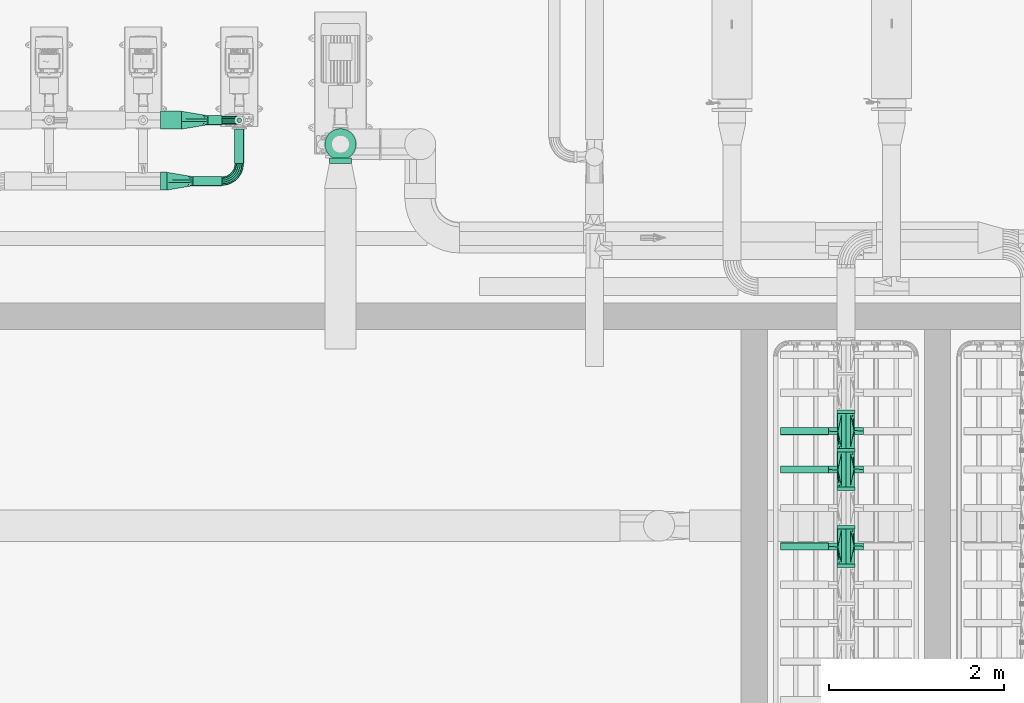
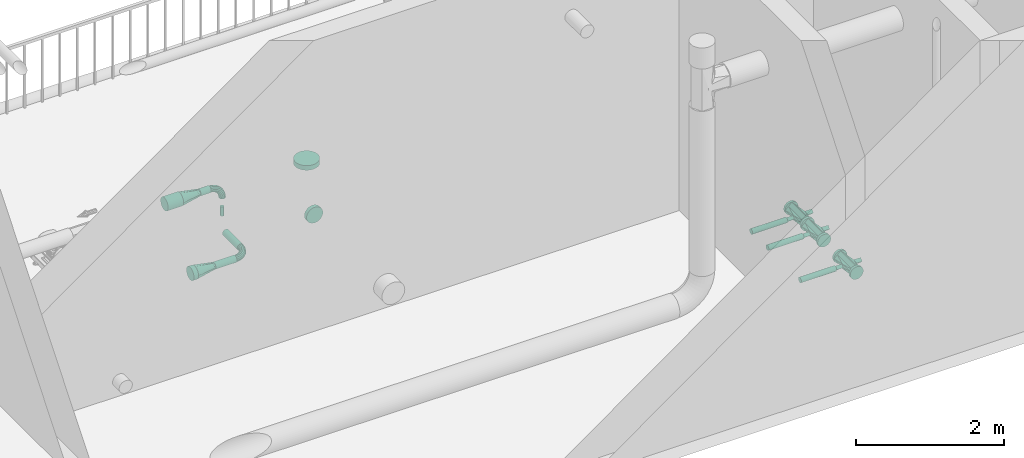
# One storey, part 12 of 28: 16 flow segments, 7 flow fittings.
"""IFC2X3 building model written with IfcOpenShell, lengths in millimetres."""

from ifc_helpers import new_model, entity, si_unit, converted_unit, direction, frame, frame_2d, origin, origin_2d_with_axis, place, context, subcontext, project, spatial, circle, extrude, faceted_brep, source, transform, mapped, material, type_object, type_shapes, element, save


model = new_model("IFC2X3")

# Units and contexts
model_context = context("Model", 3, precision=0.01, world=origin(), true_north=direction((6.123031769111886e-17, 1.0)))
body_context = subcontext(model_context, "Body", "Model", "MODEL_VIEW")
ifc_project = project(units=[si_unit("LENGTHUNIT", "METRE", prefix="MILLI"), converted_unit("PLANEANGLEUNIT", "DEGREE", entity("IfcPlaneAngleMeasure", 0.017453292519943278), si_unit("PLANEANGLEUNIT", "RADIAN"), dimensions=[0, 0, 0, 0, 0, 0, 0]), si_unit("AREAUNIT", "SQUARE_METRE")], contexts=[model_context])

# Site, building, storey
site_placement = place(None, frame((7776.576483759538, 118.3519876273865, 0.0)))
site = spatial("IfcSite", under=ifc_project, at=site_placement, Name="Default", CompositionType="ELEMENT")
building_placement = place(site_placement, origin())
building = spatial("IfcBuilding", under=site, at=building_placement, Name="Bygning (endres i Project Information)", CompositionType="ELEMENT")
storey_placement = place(building_placement, frame((0.0, 0.0, 14000.0)))
storey = spatial("IfcBuildingStorey", under=building, at=storey_placement, Name="Plan U1 - Arbeid", CompositionType="ELEMENT", Elevation=14000.000000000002)

# Flow segments
ifc_material = material(Name="SS 2343 Rustfritt stål, prosessrør, generisk")
pipe_segment_type = type_object("IfcPipeSegmentType", Name="Pipe Types:AISI 304L Rustfritt", PredefinedType="NOTDEFINED", material=ifc_material)
flow_segment_1_placement = place(storey_placement, origin())
element("IfcFlowSegment", 1, at=flow_segment_1_placement, inside=storey, type_object=pipe_segment_type, Name="Pipe Types:AISI 304L Rustfritt", ObjectType="Pipe Types:AISI 304L Rustfritt", context=body_context, shape_type="SweptSolid", body=[
    extrude(circle(Radius=42.0, at=origin_2d_with_axis()), frame((28224.00137486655, 23031.757305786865, 203.0), z_axis=(1.0, 0.0, 0.0), x_axis=(0.0, -1.0, 0.0)), (0.0, 0.0, 1.0), 550.0000000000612),
])
flow_segment_2_placement = place(storey_placement, origin())
element("IfcFlowSegment", 2, at=flow_segment_2_placement, inside=storey, type_object=pipe_segment_type, Name="Pipe Types:AISI 304L Rustfritt", ObjectType="Pipe Types:AISI 304L Rustfritt", context=body_context, shape_type="SweptSolid", body=[
    extrude(circle(Radius=103.0, at=origin_2d_with_axis()), frame((28974.001374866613, 23231.75730578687, 203.0), z_axis=(0.0, 1.0, 0.0), x_axis=(1.0, 0.0, 0.0)), (0.0, 0.0, 1.0), 39.99999999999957),
])
flow_segment_3_placement = place(storey_placement, origin())
element("IfcFlowSegment", 3, at=flow_segment_3_placement, inside=storey, type_object=pipe_segment_type, Name="Pipe Types:AISI 304L Rustfritt", ObjectType="Pipe Types:AISI 304L Rustfritt", context=body_context, shape_type="SweptSolid", body=[
    extrude(circle(Radius=42.0, at=origin_2d_with_axis()), frame((28224.00137486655, 22591.757305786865, 203.0), z_axis=(1.0, 0.0, 0.0), x_axis=(0.0, -1.0, 0.0)), (0.0, 0.0, 1.0), 550.0000000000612),
])
flow_segment_4_placement = place(storey_placement, origin())
element("IfcFlowSegment", 4, at=flow_segment_4_placement, inside=storey, type_object=pipe_segment_type, Name="Pipe Types:AISI 304L Rustfritt", ObjectType="Pipe Types:AISI 304L Rustfritt", context=body_context, shape_type="SweptSolid", body=[
    extrude(circle(Radius=103.0, at=origin_2d_with_axis()), frame((28974.001374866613, 22791.75730578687, 203.0), z_axis=(0.0, 1.0, 0.0), x_axis=(1.0, 0.0, 0.0)), (0.0, 0.0, 1.0), 39.99999999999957),
])
flow_segment_5_placement = place(storey_placement, origin())
element("IfcFlowSegment", 5, at=flow_segment_5_placement, inside=storey, type_object=pipe_segment_type, Name="Pipe Types:AISI 304L Rustfritt", ObjectType="Pipe Types:AISI 304L Rustfritt", context=body_context, shape_type="SweptSolid", body=[
    extrude(circle(Radius=103.0, at=origin_2d_with_axis()), frame((28974.00137486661, 22351.75730578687, 203.0), z_axis=(0.0, 1.0, 0.0), x_axis=(1.0, 0.0, 0.0)), (0.0, 0.0, 1.0), 39.99999999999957),
])
flow_segment_6_placement = place(storey_placement, origin())
element("IfcFlowSegment", 6, at=flow_segment_6_placement, inside=storey, type_object=pipe_segment_type, Name="Pipe Types:AISI 304L Rustfritt", ObjectType="Pipe Types:AISI 304L Rustfritt", context=body_context, shape_type="SweptSolid", body=[
    extrude(circle(Radius=42.0, at=origin_2d_with_axis()), frame((28224.00137486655, 21711.757305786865, 203.0), z_axis=(1.0, 0.0, 0.0), x_axis=(0.0, -1.0, 0.0)), (0.0, 0.0, 1.0), 550.0000000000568),
])
flow_segment_7_placement = place(storey_placement, origin())
element("IfcFlowSegment", 7, at=flow_segment_7_placement, inside=storey, type_object=pipe_segment_type, Name="Pipe Types:AISI 304L Rustfritt", ObjectType="Pipe Types:AISI 304L Rustfritt", context=body_context, shape_type="SweptSolid", body=[
    extrude(circle(Radius=103.0, at=origin_2d_with_axis()), frame((28974.00137486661, 21911.75730578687, 203.0), z_axis=(0.0, 1.0, 0.0), x_axis=(1.0, 0.0, 0.0)), (0.0, 0.0, 1.0), 39.99999999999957),
])
flow_segment_8_placement = place(storey_placement, origin())
element("IfcFlowSegment", 8, at=flow_segment_8_placement, inside=storey, type_object=pipe_segment_type, Name="Pipe Types:AISI 304L Rustfritt", ObjectType="Pipe Types:AISI 304L Rustfritt", context=body_context, shape_type="SweptSolid", body=[
    extrude(circle(Radius=103.0, at=origin_2d_with_axis()), frame((28974.00137486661, 21471.757305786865, 203.0), z_axis=(0.0, 1.0, 0.0), x_axis=(1.0, 0.0, 0.0)), (0.0, 0.0, 1.0), 40.0000000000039),
])
flow_segment_9_placement = place(storey_placement, origin())
element("IfcFlowSegment", 9, at=flow_segment_9_placement, inside=storey, type_object=pipe_segment_type, Name="Pipe Types:AISI 304L Rustfritt", ObjectType="Pipe Types:AISI 304L Rustfritt", context=body_context, shape_type="SweptSolid", body=[
    extrude(circle(Radius=103.0, at=frame_2d((0.0, 2.1657342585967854e-12), x_axis=(1.0, 0.0))), frame((21122.997814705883, 25894.757305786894, 260.0), z_axis=(1.0, 0.0, 0.0), x_axis=(0.0, -1.0, 0.0)), (0.0, 0.0, 1.0), 71.0035601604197),
])
flow_segment_10_placement = place(storey_placement, origin())
element("IfcFlowSegment", 10, at=flow_segment_10_placement, inside=storey, type_object=pipe_segment_type, Name="Pipe Types:AISI 304L Rustfritt", ObjectType="Pipe Types:AISI 304L Rustfritt", context=body_context, shape_type="SweptSolid", body=[
    extrude(circle(Radius=53.0, at=origin_2d_with_axis()), frame((21494.001374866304, 25894.757305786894, 260.0), z_axis=(1.0, 0.0, 0.0), x_axis=(0.0, -1.0, 0.0)), (0.0, 0.0, 1.0), 330.0000000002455),
])
flow_segment_11_placement = place(storey_placement, origin())
element("IfcFlowSegment", 11, at=flow_segment_11_placement, inside=storey, type_object=pipe_segment_type, Name="Pipe Types:AISI 304L Rustfritt", ObjectType="Pipe Types:AISI 304L Rustfritt", context=body_context, shape_type="SweptSolid", body=[
    extrude(circle(Radius=53.0, at=origin_2d_with_axis()), frame((22024.001374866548, 26094.757305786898, 260.0), z_axis=(0.0, 1.0, 0.0), x_axis=(1.0, 0.0, 0.0)), (0.0, 0.0, 1.0), 398.48910844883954),
])
flow_segment_12_placement = place(storey_placement, origin())
element("IfcFlowSegment", 12, at=flow_segment_12_placement, inside=storey, type_object=pipe_segment_type, Name="Pipe Types:AISI 304L Rustfritt", ObjectType="Pipe Types:AISI 304L Rustfritt", context=body_context, shape_type="SweptSolid", body=[
    extrude(circle(Radius=53.0, at=origin_2d_with_axis()), frame((21664.001374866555, 26593.120379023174, 985.0123799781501), z_axis=(1.0, 0.0, 0.0), x_axis=(0.0, -1.0, 0.0)), (0.0, 0.0, 1.0), 159.99999999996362),
])
flow_segment_13_placement = place(storey_placement, origin())
element("IfcFlowSegment", 13, at=flow_segment_13_placement, inside=storey, type_object=pipe_segment_type, Name="Pipe Types:AISI 304L Rustfritt", ObjectType="Pipe Types:AISI 304L Rustfritt", context=body_context, shape_type="SweptSolid", body=[
    extrude(circle(Radius=27.0, at=frame_2d((0.0, -4.331468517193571e-12), x_axis=(1.0, 0.0))), frame((22024.001374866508, 26593.12037902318, 485.01237997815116)), (0.0, 0.0, 1.0), 149.9999999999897),
])
flow_segment_14_placement = place(storey_placement, origin())
element("IfcFlowSegment", 14, at=flow_segment_14_placement, inside=storey, type_object=pipe_segment_type, Name="Pipe Types:AISI 304L Rustfritt", ObjectType="Pipe Types:AISI 304L Rustfritt", context=body_context, shape_type="SweptSolid", body=[
    extrude(circle(Radius=103.0, at=frame_2d((0.0, -2.1657342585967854e-12), x_axis=(1.0, 0.0))), frame((21122.99781470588, 26593.120379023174, 985.0123799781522), z_axis=(1.0, 0.0, 0.0), x_axis=(0.0, 1.0, 0.0)), (0.0, 0.0, 1.0), 241.0035601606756),
])
flow_segment_15_placement = place(storey_placement, origin())
element("IfcFlowSegment", 15, at=flow_segment_15_placement, inside=storey, type_object=pipe_segment_type, Name="Pipe Types:AISI 304L Rustfritt", ObjectType="Pipe Types:AISI 304L Rustfritt", context=body_context, shape_type="SweptSolid", body=[
    extrude(circle(Radius=128.0, at=origin_2d_with_axis()), frame((23184.00137486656, 26098.199911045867, 380.0), z_axis=(0.0, 1.0, 0.0), x_axis=(-1.0, 0.0, 0.0)), (0.0, 0.0, 1.0), 60.000000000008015),
])
flow_segment_16_placement = place(storey_placement, origin())
element("IfcFlowSegment", 16, at=flow_segment_16_placement, inside=storey, type_object=pipe_segment_type, Name="Pipe Types:AISI 304L Rustfritt", ObjectType="Pipe Types:AISI 304L Rustfritt", context=body_context, shape_type="SweptSolid", body=[
    extrude(circle(Radius=178.0, at=origin_2d_with_axis()), frame((23184.001374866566, 26318.066833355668, 1109.7246873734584), z_axis=(0.0, 0.0, 1.0), x_axis=(-1.0, 0.0, 0.0)), (0.0, 0.0, 1.0), 76.74071019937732),
])

# Flow fittings
pipe_fitting_type_1 = type_object("IfcPipeFittingType", Name="VA_prosess_rustfritt_bend_D+100:VA_prosess_rustfritt_bend_D+100", PredefinedType="NOTDEFINED", material=ifc_material)
shared_shape_1 = source(origin(), body_context, "Body", "Brep", [
    faceted_brep([(-144.36976651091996, -43.73197804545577, 0.0), (-145.47159151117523, -38.904567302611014, 21.694186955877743), (-200.0, -45.04844339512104, 21.694186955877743), (-200.0, -50.0, 0.0), (-148.5588365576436, -25.37846297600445, 39.09157412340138), (-200.0, -31.17449009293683, 39.09157412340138), (-153.02003490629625, -5.83267591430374, 48.74639560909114), (-200.0, -11.126046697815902, 48.74639560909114), (-157.97159151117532, 15.861511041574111, 48.74639560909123), (-200.0, 11.126046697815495, 48.74639560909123), (-162.43278985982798, 35.40729810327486, 39.091574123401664), (-200.0, 31.17449009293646, 39.091574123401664), (-165.5200349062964, 48.93340242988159, 21.694186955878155), (-200.0, 45.04844339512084, 21.694186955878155), (-166.6218599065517, 53.760813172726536, 0.0), (-200.0, 50.0, 0.0), (-165.52003490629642, 48.9334024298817, -21.694186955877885), (-200.0, 45.04844339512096, -21.694186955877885), (-162.43278985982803, 35.4072981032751, -39.09157412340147), (-200.0, 31.174490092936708, -39.09157412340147), (-157.97159151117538, 15.861511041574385, -48.746395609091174), (-200.0, 11.126046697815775, -48.746395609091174), (-153.0200349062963, -5.832675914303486, -48.7463956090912), (-200.0, -11.12604669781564, -48.7463956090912), (-148.55883655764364, -25.37846297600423, -39.09157412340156), (-200.0, -31.1744900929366, -39.09157412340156), (-145.47159151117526, -38.90456730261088, -21.694186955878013), (-200.0, -45.048443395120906, -21.694186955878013), (-91.52906522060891, -25.242216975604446, 0.0), (-93.67746511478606, -20.781018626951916, 21.694186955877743), (-99.69714784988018, -8.281018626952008, 39.09157412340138), (-108.39584143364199, 9.782004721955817, 48.74639560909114), (-118.05066291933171, 29.83044811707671, 48.74639560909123), (-126.74935650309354, 47.89347146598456, 39.091574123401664), (-132.76903923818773, 60.39347146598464, 21.694186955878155), (-134.917439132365, 64.85466981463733, 0.0), (-132.7690392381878, 60.393471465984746, -21.694186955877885), (-126.74935650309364, 47.89347146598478, -39.09157412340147), (-118.05066291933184, 29.830448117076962, -48.746395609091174), (-108.3958414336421, 9.782004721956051, -48.7463956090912), (-99.69714784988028, -8.281018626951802, -39.09157412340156), (-93.67746511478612, -20.781018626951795, -21.694186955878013), (-44.12754953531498, 4.542129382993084, 0.0), (-47.21479458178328, 8.41341222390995, 21.694186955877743), (-55.86506297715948, 19.26050570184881, 39.09157412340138), (-68.36506297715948, 34.935009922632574, 48.74639560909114), (-82.23901627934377, 52.33239709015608, 48.74639560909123), (-94.73901627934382, 68.00690131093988, 39.091574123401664), (-103.38928467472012, 78.85399478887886, 21.694186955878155), (-106.47652972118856, 82.72527762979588, 0.0), (-103.3892846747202, 78.85399478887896, -21.694186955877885), (-94.73901627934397, 68.00690131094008, -39.09157412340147), (-82.23901627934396, 52.332397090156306, -48.746395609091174), (-68.36506297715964, 34.93500992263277, -48.7463956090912), (-55.865062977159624, 19.260505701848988, -39.09157412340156), (-47.214794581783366, 8.413412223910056, -21.694186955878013), (-4.542129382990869, 44.12754953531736, 0.0), (-8.413412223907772, 47.214794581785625, 21.694186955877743), (-19.260505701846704, 55.86506297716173, 39.09157412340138), (-34.93500992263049, 68.3650629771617, 48.74639560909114), (-52.33239709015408, 82.2390162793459, 48.74639560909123), (-68.00690131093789, 94.73901627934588, 39.091574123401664), (-78.85399478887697, 103.3892846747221, 21.694186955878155), (-82.72527762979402, 106.47652972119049, 0.0), (-78.85399478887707, 103.38928467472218, -21.694186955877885), (-68.00690131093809, 94.73901627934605, -39.09157412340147), (-52.3323970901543, 82.23901627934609, -48.746395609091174), (-34.9350099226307, 68.36506297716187, -48.7463956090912), (-19.26050570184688, 55.86506297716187, -39.09157412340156), (-8.413412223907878, 47.21479458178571, -21.694186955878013), (25.242216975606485, 91.52906522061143, 0.0), (20.781018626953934, 93.67746511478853, 21.694186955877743), (8.28101862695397, 99.69714784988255, 39.09157412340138), (-9.782004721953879, 108.3958414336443, 48.74639560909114), (-29.830448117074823, 118.05066291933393, 48.74639560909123), (-47.89347146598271, 126.7493565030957, 39.091574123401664), (-60.39347146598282, 132.7690392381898, 21.694186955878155), (-64.85466981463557, 134.91743913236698, 0.0), (-60.393471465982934, 132.76903923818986, -21.694186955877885), (-47.893471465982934, 126.74935650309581, -39.09157412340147), (-29.830448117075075, 118.05066291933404, -48.746395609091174), (-9.782004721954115, 108.39584143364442, -48.7463956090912), (8.281018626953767, 99.69714784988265, -39.09157412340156), (20.781018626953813, 93.67746511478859, -21.694186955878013), (43.73197804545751, 144.36976651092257, 0.0), (38.90456730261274, 145.47159151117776, 21.694186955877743), (25.378462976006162, 148.55883655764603, 39.09157412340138), (5.832675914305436, 153.0200349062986, 48.74639560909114), (-15.861511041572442, 157.97159151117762, 48.74639560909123), (-35.4072981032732, 162.4327898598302, 39.091574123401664), (-48.933402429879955, 165.52003490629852, 21.694186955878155), (-53.760813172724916, 166.62185990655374, 0.0), (-48.93340242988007, 165.52003490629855, -21.694186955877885), (-35.40729810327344, 162.43278985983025, -39.09157412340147), (-15.861511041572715, 157.97159151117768, -48.746395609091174), (5.832675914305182, 153.0200349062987, -48.7463956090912), (25.37846297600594, 148.5588365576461, -39.09157412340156), (38.90456730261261, 145.4715915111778, -21.694186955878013), (50.0, 200.0, 0.0), (45.04844339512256, 200.0, 21.694186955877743), (31.174490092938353, 200.0, 39.09157412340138), (11.126046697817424, 200.0, 48.74639560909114), (-11.126046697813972, 200.0, 48.74639560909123), (-31.174490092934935, 200.0, 39.091574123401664), (-45.04844339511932, 200.0, 21.694186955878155), (-50.0, 200.0, 0.0), (-45.04844339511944, 200.0, -21.694186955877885), (-31.174490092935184, 200.0, -39.09157412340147), (-11.126046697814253, 200.0, -48.746395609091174), (11.126046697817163, 200.0, -48.7463956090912), (31.174490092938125, 200.0, -39.09157412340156), (45.048443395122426, 200.0, -21.694186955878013)], [[[0, 1, 2, 3]], [[1, 4, 5, 2]], [[4, 6, 7, 5]], [[6, 8, 9, 7]], [[8, 10, 11, 9]], [[10, 12, 13, 11]], [[12, 14, 15, 13]], [[14, 16, 17, 15]], [[16, 18, 19, 17]], [[18, 20, 21, 19]], [[20, 22, 23, 21]], [[22, 24, 25, 23]], [[24, 26, 27, 25]], [[26, 0, 3, 27]], [[28, 29, 1, 0]], [[29, 30, 4, 1]], [[30, 31, 6, 4]], [[31, 32, 8, 6]], [[32, 33, 10, 8]], [[33, 34, 12, 10]], [[34, 35, 14, 12]], [[35, 36, 16, 14]], [[36, 37, 18, 16]], [[37, 38, 20, 18]], [[38, 39, 22, 20]], [[39, 40, 24, 22]], [[40, 41, 26, 24]], [[41, 28, 0, 26]], [[42, 43, 29, 28]], [[43, 44, 30, 29]], [[44, 45, 31, 30]], [[45, 46, 32, 31]], [[46, 47, 33, 32]], [[47, 48, 34, 33]], [[48, 49, 35, 34]], [[49, 50, 36, 35]], [[50, 51, 37, 36]], [[51, 52, 38, 37]], [[52, 53, 39, 38]], [[53, 54, 40, 39]], [[54, 55, 41, 40]], [[55, 42, 28, 41]], [[56, 57, 43, 42]], [[57, 58, 44, 43]], [[58, 59, 45, 44]], [[59, 60, 46, 45]], [[60, 61, 47, 46]], [[61, 62, 48, 47]], [[62, 63, 49, 48]], [[63, 64, 50, 49]], [[64, 65, 51, 50]], [[65, 66, 52, 51]], [[66, 67, 53, 52]], [[67, 68, 54, 53]], [[68, 69, 55, 54]], [[69, 56, 42, 55]], [[70, 71, 57, 56]], [[71, 72, 58, 57]], [[72, 73, 59, 58]], [[73, 74, 60, 59]], [[74, 75, 61, 60]], [[75, 76, 62, 61]], [[76, 77, 63, 62]], [[77, 78, 64, 63]], [[78, 79, 65, 64]], [[79, 80, 66, 65]], [[80, 81, 67, 66]], [[81, 82, 68, 67]], [[82, 83, 69, 68]], [[83, 70, 56, 69]], [[84, 85, 71, 70]], [[85, 86, 72, 71]], [[86, 87, 73, 72]], [[87, 88, 74, 73]], [[88, 89, 75, 74]], [[89, 90, 76, 75]], [[90, 91, 77, 76]], [[91, 92, 78, 77]], [[92, 93, 79, 78]], [[93, 94, 80, 79]], [[94, 95, 81, 80]], [[95, 96, 82, 81]], [[96, 97, 83, 82]], [[97, 84, 70, 83]], [[98, 99, 85, 84]], [[99, 100, 86, 85]], [[100, 101, 87, 86]], [[101, 102, 88, 87]], [[102, 103, 89, 88]], [[103, 104, 90, 89]], [[104, 105, 91, 90]], [[105, 106, 92, 91]], [[106, 107, 93, 92]], [[107, 108, 94, 93]], [[108, 109, 95, 94]], [[109, 110, 96, 95]], [[110, 111, 97, 96]], [[111, 98, 84, 97]], [[3, 2, 5, 7, 9, 11, 13, 15, 17, 19, 21, 23, 25, 27]], [[111, 110, 109, 108, 107, 106, 105, 104, 103, 102, 101, 100, 99, 98]]]),
])
type_shapes(pipe_fitting_type_1, [shared_shape_1])
flow_fitting_1_placement = place(storey_placement, frame((22024.00137486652, 26593.120379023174, 985.0123799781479), z_axis=(0.0, 1.0, 0.0), x_axis=(1.0, 0.0, 0.0)))
element("IfcFlowFitting", 17, at=flow_fitting_1_placement, inside=storey, type_object=pipe_fitting_type_1, material=ifc_material, Name="VA_prosess_rustfritt_bend_D+100:VA_prosess_rustfritt_bend_D+100", ObjectType="VA_prosess_rustfritt_bend_D+100:VA_prosess_rustfritt_bend_D+100", context=body_context, shape_type="MappedRepresentation", body=[
    mapped(shared_shape_1, transform((0.0, 0.0, 0.0), scale=1.0)),
])
flow_fitting_2_placement = place(storey_placement, frame((22024.001374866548, 25894.757305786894, 260.0)))
element("IfcFlowFitting", 18, at=flow_fitting_2_placement, inside=storey, type_object=pipe_fitting_type_1, material=ifc_material, Name="VA_prosess_rustfritt_bend_D+100:VA_prosess_rustfritt_bend_D+100", ObjectType="VA_prosess_rustfritt_bend_D+100:VA_prosess_rustfritt_bend_D+100", context=body_context, shape_type="MappedRepresentation", body=[
    mapped(shared_shape_1, transform((0.0, 0.0, 0.0), scale=1.0)),
])
pipe_fitting_type_2 = type_object("IfcPipeFittingType", Name="VA_prosess_rustfritt_kryss:VA_prosess_rustfritt_kryss", PredefinedType="NOTDEFINED", material=ifc_material)
shared_shape_2 = source(origin(), body_context, "Body", "Brep", [
    faceted_brep([(-200.0, -100.0, 0.0), (-200.0, -50.0, 50.0), (-200.0, 0.0, 100.0), (-200.0, 50.0, 50.0), (-200.0, 75.0, 25.0), (-200.0, 100.0, 0.0), (-200.0, 50.0, -50.0), (-200.0, 0.0, -100.0), (-200.0, -50.0, -50.0), (-200.0, -75.0, -25.0), (200.0, 50.0, -50.0), (200.0, 75.0, -25.0), (200.0, 100.0, 0.0), (200.0, 50.0, 50.0), (200.0, 0.0, 100.0), (200.0, -50.0, 50.0), (200.0, -75.0, 25.0), (200.0, -100.0, 0.0), (200.0, -50.0, -50.0), (200.0, 0.0, -100.0), (40.0, -100.0, 0.0), (-7.006670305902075, 91.91895032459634, 39.381551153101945), (-40.0, -100.0, 0.0), (-28.24833242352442, -97.97973758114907, 9.845387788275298), (-16.496664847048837, -95.9594751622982, 19.690775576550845), (-4.744997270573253, -93.93921274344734, 29.53616336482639), (7.00667030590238, -91.91895032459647, 39.38155115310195), (23.50333515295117, -95.95947516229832, 19.690775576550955), (-23.503335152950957, 95.95947516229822, 19.69077557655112), (-40.0, 100.0, 0.0), (40.0, 100.0, 0.0), (28.248332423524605, 97.97973758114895, 9.845387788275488), (16.496664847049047, 95.95947516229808, 19.690775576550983), (4.744997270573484, 93.93921274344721, 29.536163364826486), (-7.017574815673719, -91.91978218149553, -39.37960949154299), (-23.508787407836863, -95.95989109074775, -19.68980474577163), (-28.245606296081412, 97.97994554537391, -9.844902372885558), (-16.491212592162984, 95.95989109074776, -19.689804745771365), (-4.736818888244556, 93.93983663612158, -29.534707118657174), (7.017574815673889, 91.91978218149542, -39.37960949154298), (23.508787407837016, 95.95989109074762, -19.689804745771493), (28.24560629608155, -97.97994554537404, -9.844902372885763), (16.49121259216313, -95.95989109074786, -19.689804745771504), (4.736818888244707, -93.9398366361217, -29.53470711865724), (19.233483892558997, -200.0, -20.76651610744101), (29.616741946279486, -200.0, -10.383258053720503), (40.0, -200.0, 0.0), (20.0, -200.0, 20.0), (0.0, -200.0, 40.0), (-19.2334837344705, -200.0, 20.76651626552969), (-29.616741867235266, -200.0, 10.383258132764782), (-40.0, -200.0, 0.0), (-20.0, -200.0, -20.0), (0.0, -200.0, -40.0), (-19.23348389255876, 200.0, -20.766516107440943), (-29.616741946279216, 200.0, -10.38325805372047), (-40.0, 200.0, 0.0), (-20.0, 200.0, 20.0), (0.0, 200.0, 40.0), (19.233483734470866, 200.0, 20.76651626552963), (29.616741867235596, 200.0, 10.383258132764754), (40.0, 200.0, 0.0), (20.0, 200.0, -20.0), (0.0, 200.0, -40.0)], [[[0, 1, 2, 3, 4, 5, 6, 7, 8, 9]], [[10, 11, 12, 13, 14, 15, 16, 17, 18, 19]], [[17, 16, 20]], [[15, 14, 2, 1]], [[3, 13, 21]], [[0, 22, 23, 24, 25, 26]], [[0, 26, 1]], [[16, 26, 27, 20]], [[4, 21, 28, 29]], [[21, 13, 12]], [[26, 16, 15]], [[12, 30, 31, 32, 33, 21]], [[29, 5, 4]], [[2, 14, 13, 3]], [[21, 4, 3]], [[1, 26, 15]], [[11, 30, 12]], [[10, 19, 7, 6]], [[34, 9, 8]], [[9, 34, 35, 22]], [[5, 29, 36, 37, 38, 39]], [[39, 11, 10]], [[5, 39, 6]], [[34, 18, 17]], [[11, 39, 40, 30]], [[17, 20, 41, 42, 43, 34]], [[22, 0, 9]], [[7, 19, 18, 8]], [[6, 39, 10]], [[8, 18, 34]], [[44, 45, 46, 47, 48, 49, 50, 51, 52, 53]], [[25, 24, 23, 49]], [[49, 23, 50]], [[50, 22, 51]], [[49, 48, 25]], [[26, 48, 47]], [[47, 27, 26]], [[20, 27, 46]], [[46, 27, 47]], [[48, 26, 25]], [[22, 50, 23]], [[43, 42, 41, 44]], [[44, 41, 45]], [[45, 20, 46]], [[44, 53, 43]], [[34, 53, 52]], [[52, 35, 34]], [[22, 35, 51]], [[51, 35, 52]], [[53, 34, 43]], [[20, 45, 41]], [[54, 55, 56, 57, 58, 59, 60, 61, 62, 63]], [[33, 32, 31, 59]], [[59, 31, 60]], [[60, 30, 61]], [[59, 58, 33]], [[21, 58, 57]], [[57, 28, 21]], [[29, 28, 56]], [[56, 28, 57]], [[58, 21, 33]], [[30, 60, 31]], [[38, 37, 36, 54]], [[54, 36, 55]], [[55, 29, 56]], [[54, 63, 38]], [[39, 63, 62]], [[62, 40, 39]], [[30, 40, 61]], [[61, 40, 62]], [[63, 39, 38]], [[29, 55, 36]]]),
])
type_shapes(pipe_fitting_type_2, [shared_shape_2])
for number, where, z_axis, x_axis in (
    (19, (28974.001374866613, 23031.757305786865, 203.0), (0.0, 0.0, 1.0), (0.0, 1.0, 0.0)),
    (20, (28974.001374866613, 22591.757305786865, 203.0), (0.0, 0.0, 1.0), (0.0, 1.0, 0.0)),
    (21, (28974.00137486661, 21711.757305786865, 203.0), (0.0, 0.0, 1.0), (0.0, 1.0, 0.0)),
):
    element("IfcFlowFitting", number, at=place(storey_placement, frame(where, z_axis=z_axis, x_axis=x_axis)), inside=storey, type_object=pipe_fitting_type_2, material=ifc_material, Name="VA_prosess_rustfritt_kryss:VA_prosess_rustfritt_kryss", ObjectType="VA_prosess_rustfritt_kryss:VA_prosess_rustfritt_kryss", context=body_context, shape_type="MappedRepresentation", body=[
        mapped(shared_shape_2, transform((0.0, 0.0, 0.0), scale=1.0)),
    ])
pipe_fitting_type_3 = type_object("IfcPipeFittingType", Name="Overganger, konsentriske, rustfritt EN 1,4307304L:Standard", PredefinedType="NOTDEFINED", material=ifc_material)
shared_shape_3 = source(origin(), body_context, "Body", "Brep", [
    faceted_brep([(300.0, -52.0, 0.0), (300.0, -49.425190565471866, -11.280977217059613), (300.0, -46.850381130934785, -22.561954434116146), (300.0, -39.635925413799, -31.608595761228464), (300.0, -32.421469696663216, -40.65523708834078), (300.0, -21.996279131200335, -45.67574426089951), (300.0, -11.571088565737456, -50.69625143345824), (300.0, 0.0, -50.69625143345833), (300.0, 11.571088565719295, -50.696251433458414), (300.0, 21.996279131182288, -45.67574426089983), (300.0, 32.42146969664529, -40.655237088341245), (300.0, 39.63592541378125, -31.608595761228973), (300.0, 46.85038113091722, -22.561954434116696), (300.0, 49.42519056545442, -11.280977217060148), (300.0, 52.0, 0.0), (300.0, 49.42519056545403, 11.280977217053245), (300.0, 46.85038113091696, 22.561954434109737), (300.0, 39.63592541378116, 31.60859576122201), (300.0, 32.42146969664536, 40.65523708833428), (300.0, 21.99627913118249, 45.675744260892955), (300.0, 11.571088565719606, 50.696251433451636), (300.0, 0.0, 50.69625143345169), (300.0, -11.571088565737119, 50.69625143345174), (300.0, -21.996279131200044, 45.67574426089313), (300.0, -32.421469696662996, 40.65523708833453), (300.0, -39.63592541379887, 31.60859576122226), (300.0, -46.85038113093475, 22.561954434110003), (300.0, -49.4251905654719, 11.280977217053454), (0.0, -95.84864732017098, -34.88605461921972), (0.0, -102.0, 0.0), (0.0, -95.84864732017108, 34.88605461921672), (0.0, -78.13653319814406, 65.56433618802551), (0.0, -51.0, 88.33459118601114), (0.0, -17.712114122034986, 100.45039080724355), (0.0, 17.712114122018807, 100.45039080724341), (0.0, 51.0, 88.33459118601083), (0.0, 78.13653319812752, 65.56433618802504), (0.0, 95.8486473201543, 34.88605461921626), (0.0, 102.0, 0.0), (0.0, 95.84864732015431, -34.88605461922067), (0.0, 78.13653319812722, -65.56433618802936), (0.0, 51.0, -88.33459118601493), (0.0, 17.712114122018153, -100.45039080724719), (0.0, -17.712114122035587, -100.450390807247), (0.0, -51.0, -88.33459118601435), (0.0, -78.1365331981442, -65.56433618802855)], [[[0, 1, 2, 3, 4, 5, 6, 7, 8, 9, 10, 11, 12, 13, 14, 15, 16, 17, 18, 19, 20, 21, 22, 23, 24, 25, 26, 27]], [[28, 29, 30, 31, 32, 33, 34, 35, 36, 37, 38, 39, 40, 41, 42, 43, 44, 45]], [[38, 13, 39]], [[5, 4, 44]], [[42, 9, 8]], [[11, 10, 40, 12]], [[41, 10, 9]], [[10, 41, 40]], [[5, 43, 6]], [[42, 41, 9]], [[42, 8, 7, 6, 43]], [[43, 5, 44]], [[13, 38, 14]], [[2, 45, 4, 3]], [[13, 12, 39]], [[0, 29, 1]], [[28, 2, 1]], [[12, 40, 39]], [[44, 4, 45]], [[1, 29, 28]], [[28, 45, 2]], [[29, 27, 30]], [[19, 18, 35]], [[33, 23, 22]], [[25, 24, 31, 26]], [[32, 24, 23]], [[24, 32, 31]], [[19, 34, 20]], [[33, 32, 23]], [[33, 22, 21, 20, 34]], [[34, 19, 35]], [[27, 29, 0]], [[16, 36, 18, 17]], [[27, 26, 30]], [[14, 38, 15]], [[37, 16, 15]], [[26, 31, 30]], [[35, 18, 36]], [[15, 38, 37]], [[37, 36, 16]]]),
])
type_shapes(pipe_fitting_type_3, [shared_shape_3])
for number, where, name in (
    (22, (21194.001374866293, 25894.757305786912, 260.0), "Overganger, konsentriske, rustfritt EN 1,4307304L:Standard"),
    (23, (21364.001374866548, 26593.120379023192, 985.0123799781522), "Overganger, konsentriske, rustfritt EN 1,4307304L:Standard"),
):
    element("IfcFlowFitting", number, at=place(storey_placement, frame(where)), inside=storey, type_object=pipe_fitting_type_3, material=ifc_material, Name=name, ObjectType="Overganger, konsentriske, rustfritt EN 1,4307304L:Standard", context=body_context, shape_type="MappedRepresentation", body=[
        mapped(shared_shape_3, transform((0.0, 0.0, 0.0), scale=1.0)),
    ])

save(model, "model.ifc")
